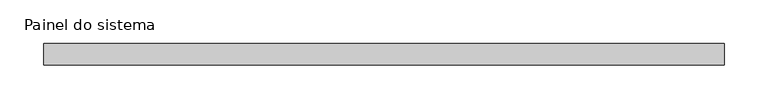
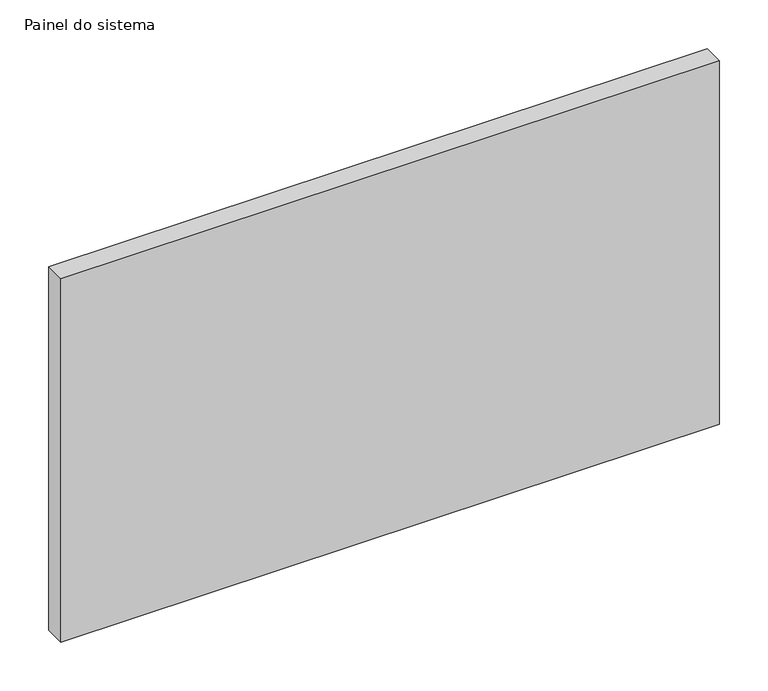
"""IFC4 building model written with IfcOpenShell, lengths in millimetres: plate geometry, Painel do sistema : Envidraçado."""

from ifc_helpers import new_model, si_unit, origin, origin_with_axes, place, context, project, spatial, polyline, outline, extrude, source, transform, mapped, element, save


def painel_do_sistema_5629c001(model_context):
    return source(origin(), model_context, "Body", "SweptSolid", [
        extrude(outline(polyline([(390.0, 24.5), (-390.0, 24.5), (-390.0, 49.5), (390.0, 49.5), (390.0, 24.5)])), origin_with_axes(), (0.0, 0.0, 1.0), 455.0),
    ])


if __name__ == "__main__":
    model = new_model("IFC4")
    model_context = context("Model", 3, world=origin())
    ifc_project = project(units=[si_unit("LENGTHUNIT", "METRE", prefix="MILLI")], contexts=[model_context])
    site = spatial("IfcSite", under=ifc_project)
    building = spatial("IfcBuilding", under=site)
    placement = place(None, origin())
    painel_do_sistema_shape = painel_do_sistema_5629c001(model_context)
    element("IfcPlate", 1, ObjectType="Painel do sistema : Envidraçado", at=placement, inside=building, context=model_context, shape_type="MappedRepresentation", body=[
        mapped(painel_do_sistema_shape, transform((0.0, 0.0, 0.0), x_axis=(1.0, 0.0, 0.0), y_axis=(0.0, 1.0, 0.0), z_axis=(0.0, 0.0, 1.0))),
    ])
    save(model, "model.ifc")
